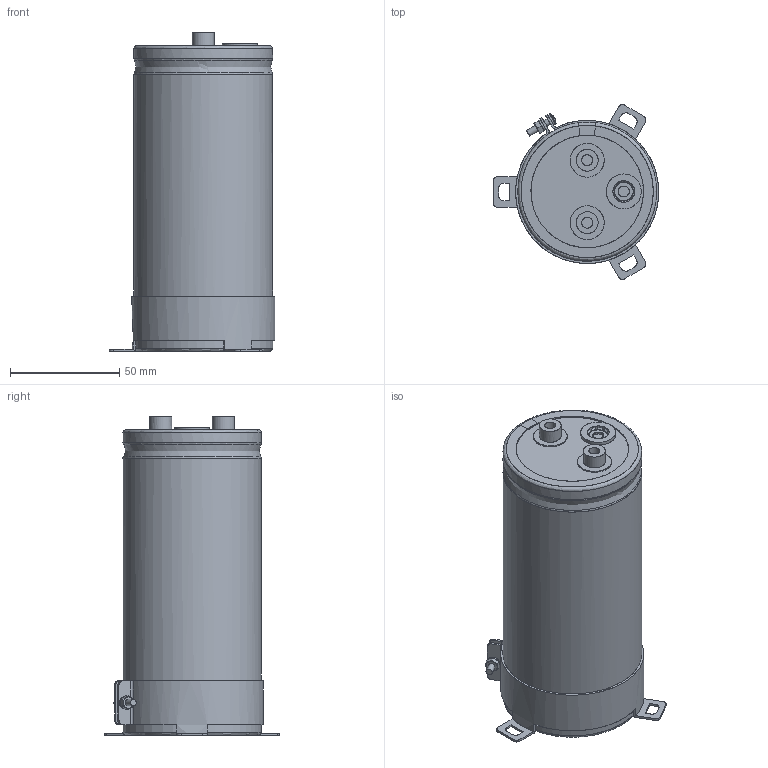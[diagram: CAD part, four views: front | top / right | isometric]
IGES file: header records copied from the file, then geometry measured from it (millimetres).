
Start section: JAMA-IS VERSION  1.0
Bounding box: 75.75 x 80.01 x 146 mm (x, y, z)
Surface area: 104767.4 mm2 (no closed solid volume)
Topology: 0 solids, 0 shells, 259 faces, 4436 edges, 4409 vertices
Faces by surface type: bspline 259
